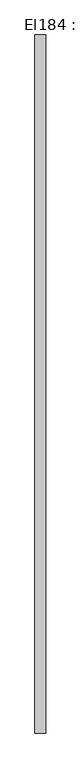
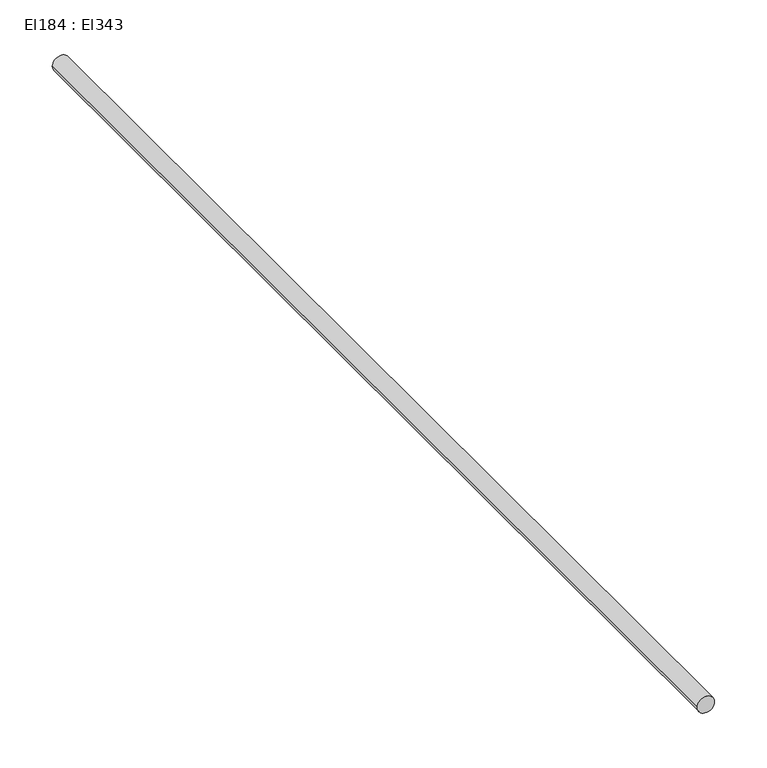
"""IFC4 building model written with IfcOpenShell, lengths in millimetres: cable carrier segment geometry, El184 : El343."""

from ifc_helpers import new_model, si_unit, point, frame, frame_2d, origin, place, context, project, spatial, circle_curve, trimmed, segment, composite_curve, outline, extrude, source, transform, mapped, element, save


def el184_el343_a1fa0438(model_context):
    return source(origin(), model_context, "Body", "SweptSolid", [
        extrude(outline(composite_curve([segment(trimmed(circle_curve(frame_2d((1800.0, 5414.4746511)), 9.5), [point((1800.0, 5404.9746511))], [point((1800.0, 5423.9746511))], False, "CARTESIAN"), True, "CONTINUOUS"), segment(trimmed(circle_curve(frame_2d((1800.0, 5414.4746511)), 9.5), [point((1800.0, 5423.9746511))], [point((1800.0, 5404.9746511))], False, "CARTESIAN"), True, "CONTINUOUS")], self_intersect=False)), frame((0.0, 935.2011745, 0.0), z_axis=(0.0, 1.0, 0.0), x_axis=(0.0, 0.0, 1.0)), (0.0, 0.0, 1.0), 1230.22),
    ])


if __name__ == "__main__":
    model = new_model("IFC4")
    model_context = context("Model", 3, world=origin())
    ifc_project = project(units=[si_unit("LENGTHUNIT", "METRE", prefix="MILLI")], contexts=[model_context])
    site = spatial("IfcSite", under=ifc_project)
    building = spatial("IfcBuilding", under=site)
    placement = place(None, origin())
    el184_el343_shape = el184_el343_a1fa0438(model_context)
    element("IfcCableCarrierSegment", 1, ObjectType="El184 : El343", at=placement, inside=building, context=model_context, shape_type="MappedRepresentation", body=[
        mapped(el184_el343_shape, transform((0.0, 0.0, 0.0), x_axis=(1.0, 0.0, 0.0), y_axis=(0.0, 1.0, 0.0), z_axis=(0.0, 0.0, 1.0))),
    ])
    save(model, "model.ifc")
